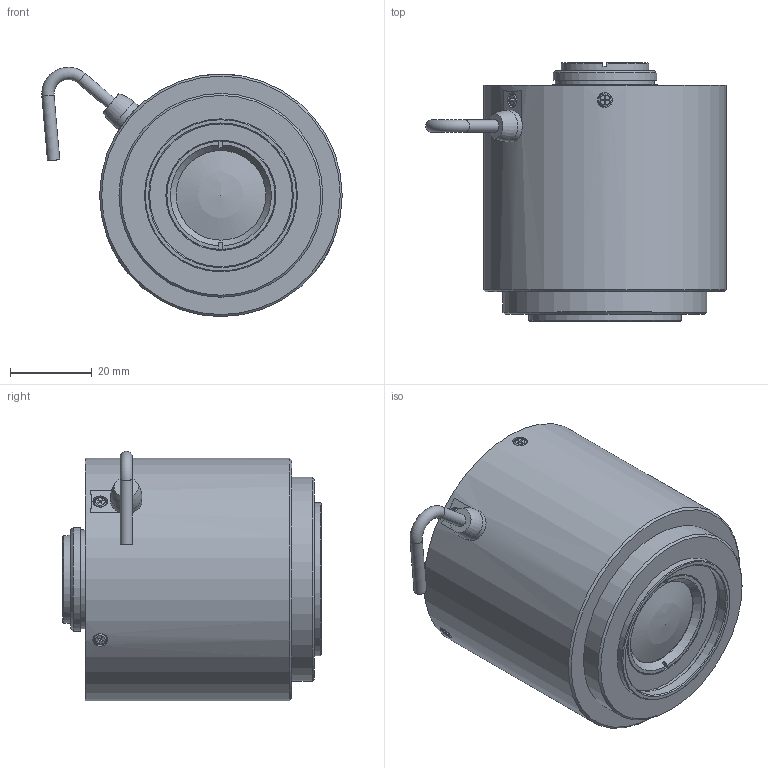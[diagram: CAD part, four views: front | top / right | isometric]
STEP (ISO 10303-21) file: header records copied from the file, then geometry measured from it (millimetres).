
FILE_DESCRIPTION(/* description */ ('Unknown'),/* implementation_level */ '2;1');
FILE_NAME(/* name */ 'Reference 3D-drawing of DL1224UC-MPY (Confidential_Tentative)_211014',/* time_stamp */ '2021-10-14T10:20:59+09:00',/* author */ ('Unknown'),/* organization */ ('Unknown'),/* preprocessor_version */ 'ST-DEVELOPER v16.7',/* originating_system */ 'DEX',/* authorisation */ $);
FILE_SCHEMA (('AUTOMOTIVE_DESIGN {1 0 10303 214 3 1 1}'));
Length unit declared in the file: millimetre
Products named in the file (1): DL1224UC-MPY
Bounding box: 73.68 x 63.38 x 61.13 mm (x, y, z)
Volume: 152023.3 mm3; surface area: 17729 mm2
Topology: 1 solids, 6 shells, 293 faces, 714 edges, 470 vertices
Faces by surface type: plane 205, cylinder 53, cone 23, torus 10, sphere 2
Full cylindrical faces by diameter (mm): 2 x4, 2.2 x4, 3 x10, 3.6 x4, 3.8 x4, 7.699 x1, 13.6 x1, 14.221 x1, 21.5 x1, 22 x1, 24.3 x1, 25.4 x1, 29 x1, 35 x1, 35.5 x1, 37.5 x1, 50 x1, 59.5 x1
Entity records: 10216 total; most frequent: CARTESIAN_POINT 1516, DIRECTION 1337, ORIENTED_EDGE 1262, EDGE_CURVE 631, LINE 473, VECTOR 473, VERTEX_POINT 453, AXIS2_PLACEMENT_3D 432
